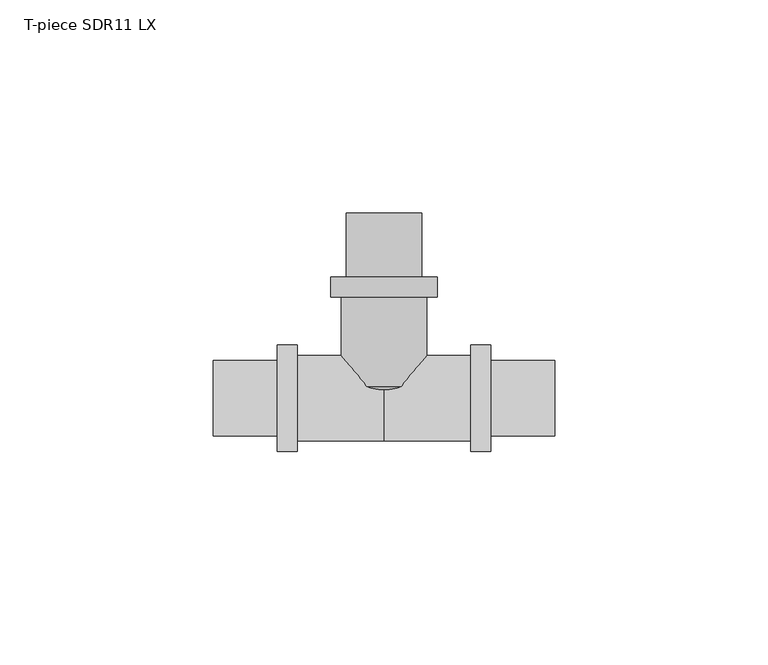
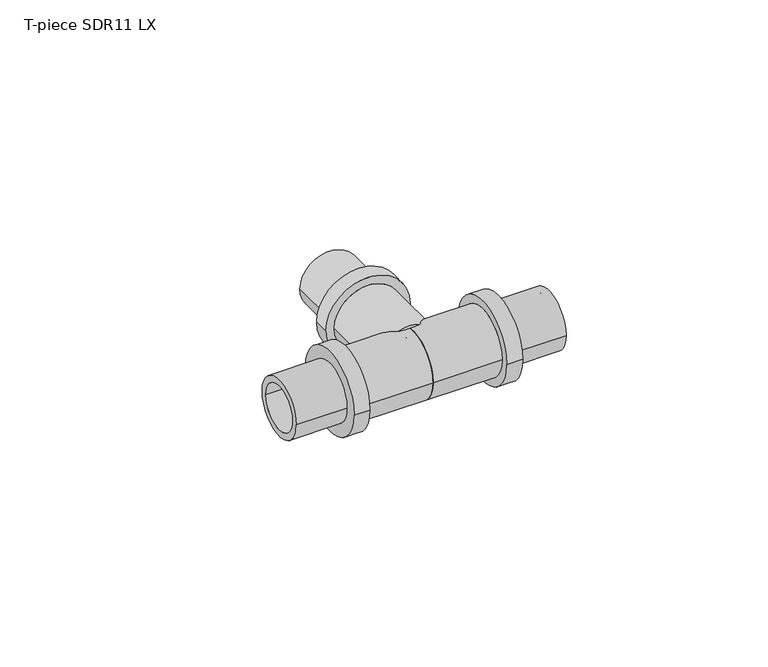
"""IFC4 building model written with IfcOpenShell, lengths in millimetres: pipe fitting geometry, T-piece SDR11 LX : T-piece LX SDR11 LX."""

from ifc_helpers import new_model, si_unit, point, frame, origin, place, context, project, spatial, polyline, circle_curve, ellipse_curve, trimmed, source, transform, mapped, element, save
from ifc_brep_helpers import plane_surface, cylinder_surface, revolved_surface, advanced_brep


def t_piece_sdr11_lx_0c2399d6(model_context):
    return source(origin(), model_context, "Body", "AdvancedBrep", [
        advanced_brep(
        [(10.0, 2.7366329, 0.0), (-10.0, 2.7366329, 0.0), (-10.0, 23.7, 0.0), (10.0, 23.7, 0.0), (6.8, 43.4, 0.0), (-6.8, 43.4, 0.0), (-6.8, 0.0, 0.0), (6.8, 0.0, 0.0), (8.8, 28.4, 0.0), (-8.8, 28.4, 0.0), (-8.8, 43.4, 0.0), (8.8, 43.4, 0.0), (12.5, 23.7, 0.0), (-12.5, 23.7, 0.0), (-12.5, 28.4, 0.0), (12.5, 28.4, 0.0)],
        [
            (0, 1, circle_curve(frame((0.0, 2.7366329, 0.0), z_axis=(0.0, 1.0, 0.0), x_axis=(-1.0, 0.0, 0.0)), 10.0)),
            (1, 2),
            (2, 3, circle_curve(frame((0.0, 23.7, 0.0), z_axis=(0.0, -1.0, 0.0), x_axis=(-1.0, 0.0, 0.0)), 10.0)),
            (3, 0),
            (4, 5, circle_curve(frame((0.0, 43.4, 0.0), z_axis=(0.0, 1.0, 0.0), x_axis=(-1.0, 0.0, 0.0)), 6.8)),
            (5, 6),
            (6, 7, circle_curve(frame((0.0, 0.0, 0.0), z_axis=(0.0, -1.0, 0.0), x_axis=(-1.0, 0.0, 0.0)), 6.8)),
            (7, 4),
            (8, 9, circle_curve(frame((0.0, 28.4, 0.0), z_axis=(0.0, 1.0, 0.0), x_axis=(-1.0, 0.0, 0.0)), 8.8)),
            (9, 10),
            (10, 11, circle_curve(frame((0.0, 43.4, 0.0), z_axis=(0.0, -1.0, 0.0), x_axis=(-1.0, 0.0, 0.0)), 8.8)),
            (11, 8),
            (12, 13, circle_curve(frame((0.0, 23.7, 0.0), z_axis=(0.0, 1.0, 0.0), x_axis=(-1.0, 0.0, 0.0)), 12.5)),
            (13, 14),
            (14, 15, circle_curve(frame((0.0, 28.4, 0.0), z_axis=(0.0, -1.0, 0.0), x_axis=(-1.0, 0.0, 0.0)), 12.5)),
            (15, 12),
            (12, 13, circle_curve(frame((0.0, 23.7, 0.0), z_axis=(0.0, -1.0, 0.0), x_axis=(1.0, 0.0, 0.0)), 12.5)),
            (2, 3, circle_curve(frame((0.0, 23.7, 0.0), z_axis=(0.0, 1.0, 0.0), x_axis=(1.0, 0.0, 0.0)), 10.0)),
            (1, 0, circle_curve(frame((0.0, 2.7366329, 0.0), z_axis=(0.0, 1.0, 0.0), x_axis=(1.0, 0.0, 0.0)), 10.0)),
            (5, 4, circle_curve(frame((0.0, 43.4, 0.0), z_axis=(0.0, 1.0, 0.0), x_axis=(1.0, 0.0, 0.0)), 6.8)),
            (7, 6, circle_curve(frame((0.0, 0.0, 0.0), z_axis=(0.0, -1.0, 0.0), x_axis=(1.0, 0.0, 0.0)), 6.8)),
            (10, 11, circle_curve(frame((0.0, 43.4, 0.0), z_axis=(0.0, 1.0, 0.0), x_axis=(1.0, 0.0, 0.0)), 8.8)),
            (9, 8, circle_curve(frame((0.0, 28.4, 0.0), z_axis=(0.0, 1.0, 0.0), x_axis=(1.0, 0.0, 0.0)), 8.8)),
            (14, 15, circle_curve(frame((0.0, 28.4, 0.0), z_axis=(0.0, 1.0, 0.0), x_axis=(1.0, 0.0, 0.0)), 12.5)),
            (6, 1, circle_curve(frame((-2.0462802, 8.7978491, 0.0), z_axis=(0.0, 0.0, -1.0), x_axis=(0.0, -1.0, 0.0)), 10.0)),
            (0, 7, circle_curve(frame((2.0462802, 8.7978491, 0.0), z_axis=(0.0, 0.0, -1.0), x_axis=(0.0, -1.0, 0.0)), 10.0)),
        ],
        [
            cylinder_surface(frame((0.0, 0.0, 0.0), z_axis=(0.0, -1.0, 0.0), x_axis=(-1.0, 0.0, 0.0)), 10.0),
            revolved_surface(polyline([(-6.8, 0.0, 0.0), (-6.8, 43.4, 0.0)]), (0.0, 0.0, 0.0), (0.0, -1.0, 0.0)),
            cylinder_surface(frame((0.0, 0.0, 0.0), z_axis=(0.0, -1.0, 0.0), x_axis=(-1.0, 0.0, 0.0)), 8.8),
            cylinder_surface(frame((0.0, 0.0, 0.0), z_axis=(0.0, -1.0, 0.0), x_axis=(-1.0, 0.0, 0.0)), 12.5),
            plane_surface(frame((0.0, 23.7, 0.0), z_axis=(0.0, -1.0, 0.0), x_axis=(1.0, 0.0, 0.0))),
            cylinder_surface(frame((0.0, 0.0, 0.0), z_axis=(0.0, -1.0, 0.0), x_axis=(1.0, 0.0, 0.0)), 10.0),
            revolved_surface(polyline([(6.8, 0.0, 0.0), (6.8, 43.4, 0.0)]), (0.0, 0.0, 0.0), (0.0, -1.0, 0.0)),
            plane_surface(frame((0.0, 43.4, 0.0), z_axis=(0.0, 1.0, 0.0), x_axis=(1.0, 0.0, 0.0))),
            cylinder_surface(frame((0.0, 0.0, 0.0), z_axis=(0.0, -1.0, 0.0), x_axis=(1.0, 0.0, 0.0)), 8.8),
            plane_surface(frame((0.0, 28.4, 0.0), z_axis=(0.0, 1.0, 0.0), x_axis=(1.0, 0.0, 0.0))),
            cylinder_surface(frame((0.0, 0.0, 0.0), z_axis=(0.0, -1.0, 0.0), x_axis=(1.0, 0.0, 0.0)), 12.5),
            revolved_surface(trimmed(ellipse_curve(frame((-2.0462802, 8.7978491, 0.0), z_axis=(0.0, 0.0, 1.0), x_axis=(0.0, -1.0, 0.0)), 10.0, 10.0), [point((-10.0, 2.7366329, 0.0))], [point((-6.8, 0.0, 0.0))], True, "CARTESIAN"), (0.0, 0.0, 0.0), (0.0, -1.0, 0.0)),
            revolved_surface(trimmed(ellipse_curve(frame((2.0462802, 8.7978491, 0.0), z_axis=(0.0, 0.0, -1.0), x_axis=(0.0, -1.0, 0.0)), 10.0, 10.0), [point((10.0, 2.7366329, 0.0))], [point((6.8, 0.0, 0.0))], True, "CARTESIAN"), (0.0, 0.0, 0.0), (0.0, -1.0, 0.0)),
        ],
        [
            (0, [[1, 2, 3, 4]]),
            (1, [[5, 6, 7, 8]]),
            (2, [[9, 10, 11, 12]]),
            (3, [[13, 14, 15, 16]]),
            (4, [[17, -13], [18, -3]]),
            (5, [[19, -4, -18, -2]]),
            (6, [[20, -8, 21, -6]]),
            (7, [[22, -11], [-20, -5]]),
            (8, [[23, -12, -22, -10]]),
            (9, [[24, -15], [-23, -9]]),
            (10, [[-17, -16, -24, -14]]),
            (11, [[-7, 25, -1, 26]]),
            (12, [[-21, -26, -19, -25]]),
        ],
    ),
        advanced_brep(
        [(20.3, 10.0, 0.0), (20.3, -10.0, 0.0), (0.0, -10.0, 0.0), (0.0, 10.0, 0.0), (0.0, 6.8, 0.0), (0.0, -6.8, 0.0), (40.0, -6.8, 0.0), (40.0, 6.8, 0.0), (40.0, 8.8, 0.0), (40.0, -8.8, 0.0), (25.0, -8.8, 0.0), (25.0, 8.8, 0.0), (25.0, 12.5, 0.0), (25.0, -12.5, 0.0), (20.3, -12.5, 0.0), (20.3, 12.5, 0.0)],
        [
            (0, 1, circle_curve(frame((20.3, 0.0, 0.0), z_axis=(-1.0, 0.0, 0.0), x_axis=(0.0, -1.0, 0.0)), 10.0)),
            (1, 2),
            (2, 3, circle_curve(frame((0.0, 0.0, 0.0), z_axis=(1.0, 0.0, 0.0), x_axis=(0.0, -1.0, 0.0)), 10.0)),
            (3, 0),
            (4, 5, circle_curve(frame((0.0, 0.0, 0.0), z_axis=(-1.0, 0.0, 0.0), x_axis=(0.0, -1.0, 0.0)), 6.8)),
            (5, 6),
            (6, 7, circle_curve(frame((40.0, 0.0, 0.0), z_axis=(1.0, 0.0, 0.0), x_axis=(0.0, -1.0, 0.0)), 6.8)),
            (7, 4),
            (8, 9, circle_curve(frame((40.0, 0.0, 0.0), z_axis=(-1.0, 0.0, 0.0), x_axis=(0.0, -1.0, 0.0)), 8.8)),
            (9, 10),
            (10, 11, circle_curve(frame((25.0, 0.0, 0.0), z_axis=(1.0, 0.0, 0.0), x_axis=(0.0, -1.0, 0.0)), 8.8)),
            (11, 8),
            (12, 13, circle_curve(frame((25.0, 0.0, 0.0), z_axis=(-1.0, 0.0, 0.0), x_axis=(0.0, -1.0, 0.0)), 12.5)),
            (13, 14),
            (14, 15, circle_curve(frame((20.3, 0.0, 0.0), z_axis=(1.0, 0.0, 0.0), x_axis=(0.0, -1.0, 0.0)), 12.5)),
            (15, 12),
            (14, 15, circle_curve(frame((20.3, 0.0, 0.0), z_axis=(-1.0, 0.0, 0.0), x_axis=(0.0, 1.0, 0.0)), 12.5)),
            (0, 1, circle_curve(frame((20.3, 0.0, 0.0), z_axis=(1.0, 0.0, 0.0), x_axis=(0.0, 1.0, 0.0)), 10.0)),
            (3, 2, circle_curve(frame((0.0, 0.0, 0.0), z_axis=(1.0, 0.0, 0.0), x_axis=(0.0, 1.0, 0.0)), 10.0)),
            (4, 5, circle_curve(frame((0.0, 0.0, 0.0), z_axis=(1.0, 0.0, 0.0), x_axis=(0.0, 1.0, 0.0)), 6.8)),
            (7, 6, circle_curve(frame((40.0, 0.0, 0.0), z_axis=(1.0, 0.0, 0.0), x_axis=(0.0, 1.0, 0.0)), 6.8)),
            (8, 9, circle_curve(frame((40.0, 0.0, 0.0), z_axis=(1.0, 0.0, 0.0), x_axis=(0.0, 1.0, 0.0)), 8.8)),
            (11, 10, circle_curve(frame((25.0, 0.0, 0.0), z_axis=(1.0, 0.0, 0.0), x_axis=(0.0, 1.0, 0.0)), 8.8)),
            (12, 13, circle_curve(frame((25.0, 0.0, 0.0), z_axis=(1.0, 0.0, 0.0), x_axis=(0.0, 1.0, 0.0)), 12.5)),
        ],
        [
            cylinder_surface(frame((0.0, 0.0, 0.0), z_axis=(1.0, 0.0, 0.0), x_axis=(0.0, -1.0, 0.0)), 10.0),
            revolved_surface(polyline([(40.0, -6.8, 0.0), (0.0, -6.8, 0.0)]), (0.0, 0.0, 0.0), (1.0, 0.0, 0.0)),
            cylinder_surface(frame((0.0, 0.0, 0.0), z_axis=(1.0, 0.0, 0.0), x_axis=(0.0, -1.0, 0.0)), 8.8),
            cylinder_surface(frame((0.0, 0.0, 0.0), z_axis=(1.0, 0.0, 0.0), x_axis=(0.0, -1.0, 0.0)), 12.5),
            plane_surface(frame((20.3, 0.0, 0.0), z_axis=(-1.0, 0.0, 0.0), x_axis=(0.0, 1.0, 0.0))),
            cylinder_surface(frame((0.0, 0.0, 0.0), z_axis=(1.0, 0.0, 0.0), x_axis=(0.0, 1.0, 0.0)), 10.0),
            plane_surface(frame((0.0, 0.0, 0.0), z_axis=(-1.0, 0.0, 0.0), x_axis=(0.0, 1.0, 0.0))),
            revolved_surface(polyline([(40.0, 6.8, 0.0), (0.0, 6.8, 0.0)]), (0.0, 0.0, 0.0), (1.0, 0.0, 0.0)),
            plane_surface(frame((40.0, 0.0, 0.0), z_axis=(1.0, 0.0, 0.0), x_axis=(0.0, 1.0, 0.0))),
            cylinder_surface(frame((0.0, 0.0, 0.0), z_axis=(1.0, 0.0, 0.0), x_axis=(0.0, 1.0, 0.0)), 8.8),
            plane_surface(frame((25.0, 0.0, 0.0), z_axis=(1.0, 0.0, 0.0), x_axis=(0.0, 1.0, 0.0))),
            cylinder_surface(frame((0.0, 0.0, 0.0), z_axis=(1.0, 0.0, 0.0), x_axis=(0.0, 1.0, 0.0)), 12.5),
        ],
        [
            (0, [[1, 2, 3, 4]]),
            (1, [[5, 6, 7, 8]]),
            (2, [[9, 10, 11, 12]]),
            (3, [[13, 14, 15, 16]]),
            (4, [[17, -15], [18, -1]]),
            (5, [[-18, -4, 19, -2]]),
            (6, [[-19, -3], [20, -5]]),
            (7, [[-20, -8, 21, -6]]),
            (8, [[22, -9], [-21, -7]]),
            (9, [[-22, -12, 23, -10]]),
            (10, [[24, -13], [-23, -11]]),
            (11, [[-24, -16, -17, -14]]),
        ],
    ),
        advanced_brep(
        [(0.0, 10.0, 0.0), (0.0, -10.0, 0.0), (-20.3, -10.0, 0.0), (-20.3, 10.0, 0.0), (-40.0, 6.8, 0.0), (-40.0, -6.8, 0.0), (0.0, -6.8, 0.0), (0.0, 6.8, 0.0), (-25.0, 8.8, 0.0), (-25.0, -8.8, 0.0), (-40.0, -8.8, 0.0), (-40.0, 8.8, 0.0), (-20.3, 12.5, 0.0), (-20.3, -12.5, 0.0), (-25.0, -12.5, 0.0), (-25.0, 12.5, 0.0)],
        [
            (0, 1, circle_curve(frame((0.0, 0.0, 0.0), z_axis=(-1.0, 0.0, 0.0), x_axis=(0.0, -1.0, 0.0)), 10.0)),
            (1, 2),
            (2, 3, circle_curve(frame((-20.3, 0.0, 0.0), z_axis=(1.0, 0.0, 0.0), x_axis=(0.0, -1.0, 0.0)), 10.0)),
            (3, 0),
            (4, 5, circle_curve(frame((-40.0, 0.0, 0.0), z_axis=(-1.0, 0.0, 0.0), x_axis=(0.0, -1.0, 0.0)), 6.8)),
            (5, 6),
            (6, 7, circle_curve(frame((0.0, 0.0, 0.0), z_axis=(1.0, 0.0, 0.0), x_axis=(0.0, -1.0, 0.0)), 6.8)),
            (7, 4),
            (8, 9, circle_curve(frame((-25.0, 0.0, 0.0), z_axis=(-1.0, 0.0, 0.0), x_axis=(0.0, -1.0, 0.0)), 8.8)),
            (9, 10),
            (10, 11, circle_curve(frame((-40.0, 0.0, 0.0), z_axis=(1.0, 0.0, 0.0), x_axis=(0.0, -1.0, 0.0)), 8.8)),
            (11, 8),
            (12, 13, circle_curve(frame((-20.3, 0.0, 0.0), z_axis=(-1.0, 0.0, 0.0), x_axis=(0.0, -1.0, 0.0)), 12.5)),
            (13, 14),
            (14, 15, circle_curve(frame((-25.0, 0.0, 0.0), z_axis=(1.0, 0.0, 0.0), x_axis=(0.0, -1.0, 0.0)), 12.5)),
            (15, 12),
            (12, 13, circle_curve(frame((-20.3, 0.0, 0.0), z_axis=(1.0, 0.0, 0.0), x_axis=(0.0, 1.0, 0.0)), 12.5)),
            (2, 3, circle_curve(frame((-20.3, 0.0, 0.0), z_axis=(-1.0, 0.0, 0.0), x_axis=(0.0, 1.0, 0.0)), 10.0)),
            (1, 0, circle_curve(frame((0.0, 0.0, 0.0), z_axis=(-1.0, 0.0, 0.0), x_axis=(0.0, 1.0, 0.0)), 10.0)),
            (6, 7, circle_curve(frame((0.0, 0.0, 0.0), z_axis=(-1.0, 0.0, 0.0), x_axis=(0.0, 1.0, 0.0)), 6.8)),
            (5, 4, circle_curve(frame((-40.0, 0.0, 0.0), z_axis=(-1.0, 0.0, 0.0), x_axis=(0.0, 1.0, 0.0)), 6.8)),
            (10, 11, circle_curve(frame((-40.0, 0.0, 0.0), z_axis=(-1.0, 0.0, 0.0), x_axis=(0.0, 1.0, 0.0)), 8.8)),
            (9, 8, circle_curve(frame((-25.0, 0.0, 0.0), z_axis=(-1.0, 0.0, 0.0), x_axis=(0.0, 1.0, 0.0)), 8.8)),
            (14, 15, circle_curve(frame((-25.0, 0.0, 0.0), z_axis=(-1.0, 0.0, 0.0), x_axis=(0.0, 1.0, 0.0)), 12.5)),
        ],
        [
            cylinder_surface(frame((0.0, 0.0, 0.0), z_axis=(1.0, 0.0, 0.0), x_axis=(0.0, -1.0, 0.0)), 10.0),
            revolved_surface(polyline([(0.0, -6.8, 0.0), (-40.0, -6.8, 0.0)]), (0.0, 0.0, 0.0), (1.0, 0.0, 0.0)),
            cylinder_surface(frame((0.0, 0.0, 0.0), z_axis=(1.0, 0.0, 0.0), x_axis=(0.0, -1.0, 0.0)), 8.8),
            cylinder_surface(frame((0.0, 0.0, 0.0), z_axis=(1.0, 0.0, 0.0), x_axis=(0.0, -1.0, 0.0)), 12.5),
            plane_surface(frame((-20.3, 0.0, 0.0), z_axis=(1.0, 0.0, 0.0), x_axis=(0.0, 1.0, 0.0))),
            cylinder_surface(frame((0.0, 0.0, 0.0), z_axis=(1.0, 0.0, 0.0), x_axis=(0.0, 1.0, 0.0)), 10.0),
            plane_surface(frame((0.0, 0.0, 0.0), z_axis=(1.0, 0.0, 0.0), x_axis=(0.0, 1.0, 0.0))),
            revolved_surface(polyline([(0.0, 6.8, 0.0), (-40.0, 6.8, 0.0)]), (0.0, 0.0, 0.0), (1.0, 0.0, 0.0)),
            plane_surface(frame((-40.0, 0.0, 0.0), z_axis=(-1.0, 0.0, 0.0), x_axis=(0.0, 1.0, 0.0))),
            cylinder_surface(frame((0.0, 0.0, 0.0), z_axis=(1.0, 0.0, 0.0), x_axis=(0.0, 1.0, 0.0)), 8.8),
            plane_surface(frame((-25.0, 0.0, 0.0), z_axis=(-1.0, 0.0, 0.0), x_axis=(0.0, 1.0, 0.0))),
            cylinder_surface(frame((0.0, 0.0, 0.0), z_axis=(1.0, 0.0, 0.0), x_axis=(0.0, 1.0, 0.0)), 12.5),
        ],
        [
            (0, [[1, 2, 3, 4]]),
            (1, [[5, 6, 7, 8]]),
            (2, [[9, 10, 11, 12]]),
            (3, [[13, 14, 15, 16]]),
            (4, [[17, -13], [18, -3]]),
            (5, [[19, -4, -18, -2]]),
            (6, [[-19, -1], [20, -7]]),
            (7, [[21, -8, -20, -6]]),
            (8, [[22, -11], [-21, -5]]),
            (9, [[23, -12, -22, -10]]),
            (10, [[24, -15], [-23, -9]]),
            (11, [[-17, -16, -24, -14]]),
        ],
    ),
    ])


if __name__ == "__main__":
    model = new_model("IFC4")
    model_context = context("Model", 3, world=origin())
    ifc_project = project(units=[si_unit("LENGTHUNIT", "METRE", prefix="MILLI")], contexts=[model_context])
    site = spatial("IfcSite", under=ifc_project)
    building = spatial("IfcBuilding", under=site)
    placement = place(None, origin())
    t_piece_sdr11_lx_shape = t_piece_sdr11_lx_0c2399d6(model_context)
    element("IfcPipeFitting", 1, ObjectType="T-piece SDR11 LX : T-piece LX SDR11 LX", at=placement, inside=building, context=model_context, shape_type="MappedRepresentation", body=[
        mapped(t_piece_sdr11_lx_shape, transform((0.0, 0.0, 0.0), x_axis=(1.0, 0.0, 0.0), y_axis=(0.0, 1.0, 0.0), z_axis=(0.0, 0.0, 1.0))),
    ])
    save(model, "model.ifc")
